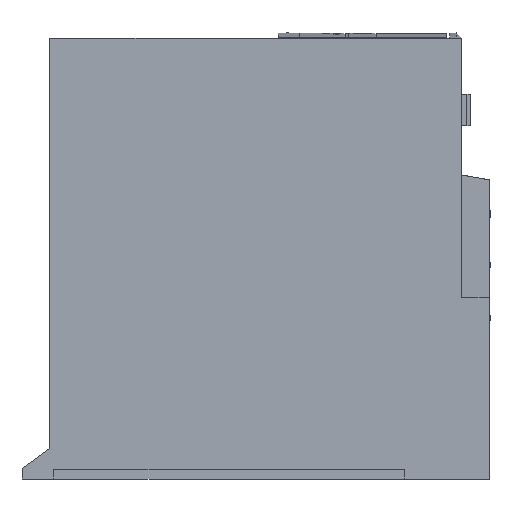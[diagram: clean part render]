
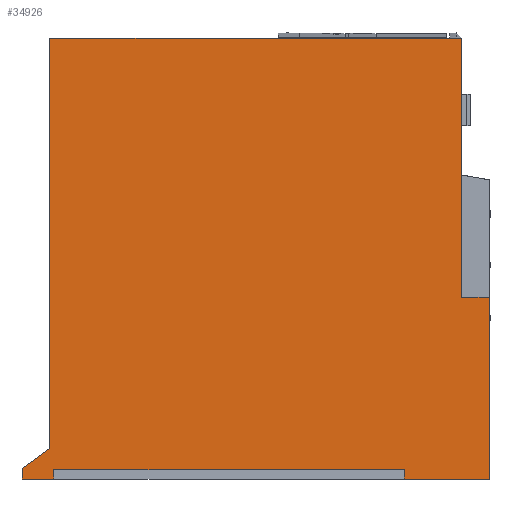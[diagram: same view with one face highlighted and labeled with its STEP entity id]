
A CAD part, left-side view. The second image highlights one B-rep face of the part: STEP entity #34926.
In plain terms, the highlighted planar face has unit normal (-1, 0, 0).
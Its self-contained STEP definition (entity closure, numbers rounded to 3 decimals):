
#1922 = LINE ( 'NONE', #62934, #33289 ) ;
#6415 = CARTESIAN_POINT ( 'NONE',  ( 0., 176., -162. ) ) ;
#6722 = ORIENTED_EDGE ( 'NONE', *, *, #99225, .F. ) ;
#8733 = DIRECTION ( 'NONE',  ( 0., 1., 0. ) ) ;
#10688 = EDGE_CURVE ( 'NONE', #20806, #51188, #124582, .T. ) ;
#11781 = DIRECTION ( 'NONE',  ( 0., -1., 0. ) ) ;
#12716 = AXIS2_PLACEMENT_3D ( 'NONE', #131417, #60601, #143289 ) ;
#14021 = CARTESIAN_POINT ( 'NONE',  ( 0., 176., -162. ) ) ;
#16282 = CARTESIAN_POINT ( 'NONE',  ( 0., 0., -166. ) ) ;
#17196 = VECTOR ( 'NONE', #100233, 1000. ) ;
#17797 = CARTESIAN_POINT ( 'NONE',  ( 0., 10.5, -154.5 ) ) ;
#19989 = EDGE_CURVE ( 'NONE', #33953, #31241, #80830, .T. ) ;
#20806 = VERTEX_POINT ( 'NONE', #52698 ) ;
#20996 = EDGE_CURVE ( 'NONE', #67184, #27950, #74919, .T. ) ;
#21049 = LINE ( 'NONE', #131189, #48699 ) ;
#21692 = CARTESIAN_POINT ( 'NONE',  ( 0., 10.5, 0. ) ) ;
#22839 = CARTESIAN_POINT ( 'NONE',  ( 0., 164., -166. ) ) ;
#27286 = DIRECTION ( 'NONE',  ( 0., 0., -1. ) ) ;
#27950 = VERTEX_POINT ( 'NONE', #41618 ) ;
#29624 = DIRECTION ( 'NONE',  ( 0., 0., 1. ) ) ;
#31241 = VERTEX_POINT ( 'NONE', #6415 ) ;
#31682 = LINE ( 'NONE', #73413, #94530 ) ;
#31907 = CARTESIAN_POINT ( 'NONE',  ( 0., 165.5, 0. ) ) ;
#32629 = CARTESIAN_POINT ( 'NONE',  ( 0., 164., -162.5 ) ) ;
#33113 = CARTESIAN_POINT ( 'NONE',  ( 0., 32., -166. ) ) ;
#33289 = VECTOR ( 'NONE', #27286, 1000. ) ;
#33953 = VERTEX_POINT ( 'NONE', #38922 ) ;
#34926 = ADVANCED_FACE ( 'NONE', ( #132572 ), #107665, .T. ) ;
#35584 = DIRECTION ( 'NONE',  ( 0., 1., 0. ) ) ;
#38489 = EDGE_CURVE ( 'NONE', #135989, #33953, #65455, .T. ) ;
#38922 = CARTESIAN_POINT ( 'NONE',  ( 0., 176., -166. ) ) ;
#39166 = EDGE_CURVE ( 'NONE', #27950, #51188, #142851, .T. ) ;
#39397 = VECTOR ( 'NONE', #35584, 1000. ) ;
#41618 = CARTESIAN_POINT ( 'NONE',  ( 0., 32., -162.5 ) ) ;
#43435 = VECTOR ( 'NONE', #11781, 1000. ) ;
#43944 = ORIENTED_EDGE ( 'NONE', *, *, #141132, .T. ) ;
#44279 = CARTESIAN_POINT ( 'NONE',  ( 0., 0., -166. ) ) ;
#48699 = VECTOR ( 'NONE', #98168, 1000. ) ;
#49402 = VECTOR ( 'NONE', #104658, 1000. ) ;
#51107 = VECTOR ( 'NONE', #29624, 1000. ) ;
#51188 = VERTEX_POINT ( 'NONE', #33113 ) ;
#52698 = CARTESIAN_POINT ( 'NONE',  ( 0., 0., -166. ) ) ;
#53276 = CARTESIAN_POINT ( 'NONE',  ( 0., 165.5, -154.5 ) ) ;
#56120 = LINE ( 'NONE', #14021, #150429 ) ;
#56521 = VERTEX_POINT ( 'NONE', #21692 ) ;
#57400 = ORIENTED_EDGE ( 'NONE', *, *, #104879, .T. ) ;
#58005 = VECTOR ( 'NONE', #8733, 1000. ) ;
#60601 = DIRECTION ( 'NONE',  ( -1., 0., 0. ) ) ;
#62502 = ORIENTED_EDGE ( 'NONE', *, *, #123744, .T. ) ;
#62934 = CARTESIAN_POINT ( 'NONE',  ( 0., 0., 0. ) ) ;
#63937 = CARTESIAN_POINT ( 'NONE',  ( 0., 10.5, -97.5 ) ) ;
#64545 = CARTESIAN_POINT ( 'NONE',  ( 0., 165.5, -154.5 ) ) ;
#65455 = LINE ( 'NONE', #16282, #152336 ) ;
#67184 = VERTEX_POINT ( 'NONE', #32629 ) ;
#72020 = EDGE_CURVE ( 'NONE', #114185, #20806, #1922, .T. ) ;
#73413 = CARTESIAN_POINT ( 'NONE',  ( 0., 0., 0. ) ) ;
#74919 = LINE ( 'NONE', #129582, #43435 ) ;
#80830 = LINE ( 'NONE', #80885, #49402 ) ;
#80885 = CARTESIAN_POINT ( 'NONE',  ( 0., 176., 0. ) ) ;
#87095 = VECTOR ( 'NONE', #88244, 1000. ) ;
#88244 = DIRECTION ( 'NONE',  ( 0., 0., -1. ) ) ;
#94530 = VECTOR ( 'NONE', #144189, 1000. ) ;
#96671 = DIRECTION ( 'NONE',  ( 0., 0.814, -0.581 ) ) ;
#98168 = DIRECTION ( 'NONE',  ( 0., 0., 1. ) ) ;
#99225 = EDGE_CURVE ( 'NONE', #117224, #56521, #31682, .T. ) ;
#99366 = ORIENTED_EDGE ( 'NONE', *, *, #10688, .F. ) ;
#100233 = DIRECTION ( 'NONE',  ( 0., 0., -1. ) ) ;
#102612 = ORIENTED_EDGE ( 'NONE', *, *, #39166, .T. ) ;
#104658 = DIRECTION ( 'NONE',  ( 0., 0., 1. ) ) ;
#104879 = EDGE_CURVE ( 'NONE', #115580, #56521, #113989, .T. ) ;
#106377 = CARTESIAN_POINT ( 'NONE',  ( 0., -129.735, -97.5 ) ) ;
#107621 = EDGE_CURVE ( 'NONE', #114185, #115580, #129975, .T. ) ;
#107665 = PLANE ( 'NONE',  #12716 ) ;
#113090 = ORIENTED_EDGE ( 'NONE', *, *, #72020, .F. ) ;
#113188 = ORIENTED_EDGE ( 'NONE', *, *, #133648, .T. ) ;
#113989 = LINE ( 'NONE', #17797, #51107 ) ;
#114185 = VERTEX_POINT ( 'NONE', #123370 ) ;
#115580 = VERTEX_POINT ( 'NONE', #63937 ) ;
#117224 = VERTEX_POINT ( 'NONE', #31907 ) ;
#123370 = CARTESIAN_POINT ( 'NONE',  ( 0., 0., -97.5 ) ) ;
#123744 = EDGE_CURVE ( 'NONE', #117224, #140881, #149994, .T. ) ;
#124582 = LINE ( 'NONE', #44279, #58005 ) ;
#129582 = CARTESIAN_POINT ( 'NONE',  ( 0., 164., -162.5 ) ) ;
#129975 = LINE ( 'NONE', #106377, #39397 ) ;
#131189 = CARTESIAN_POINT ( 'NONE',  ( 0., 164., -166. ) ) ;
#131417 = CARTESIAN_POINT ( 'NONE',  ( 0., 0., 0. ) ) ;
#132572 = FACE_OUTER_BOUND ( 'NONE', #136893, .T. ) ;
#133648 = EDGE_CURVE ( 'NONE', #140881, #31241, #56120, .T. ) ;
#134029 = ORIENTED_EDGE ( 'NONE', *, *, #107621, .T. ) ;
#135989 = VERTEX_POINT ( 'NONE', #22839 ) ;
#136893 = EDGE_LOOP ( 'NONE', ( #113090, #134029, #57400, #6722, #62502, #113188, #141319, #139185, #43944, #142815, #102612, #99366 ) ) ;
#139185 = ORIENTED_EDGE ( 'NONE', *, *, #38489, .F. ) ;
#140881 = VERTEX_POINT ( 'NONE', #53276 ) ;
#141132 = EDGE_CURVE ( 'NONE', #135989, #67184, #21049, .T. ) ;
#141319 = ORIENTED_EDGE ( 'NONE', *, *, #19989, .F. ) ;
#142815 = ORIENTED_EDGE ( 'NONE', *, *, #20996, .T. ) ;
#142851 = LINE ( 'NONE', #146721, #17196 ) ;
#143289 = DIRECTION ( 'NONE',  ( 0., 0., 1. ) ) ;
#144189 = DIRECTION ( 'NONE',  ( 0., -1., 0. ) ) ;
#145895 = DIRECTION ( 'NONE',  ( 0., 1., 0. ) ) ;
#146721 = CARTESIAN_POINT ( 'NONE',  ( 0., 32., -166. ) ) ;
#149994 = LINE ( 'NONE', #64545, #87095 ) ;
#150429 = VECTOR ( 'NONE', #96671, 1000. ) ;
#152336 = VECTOR ( 'NONE', #145895, 1000. ) ;
